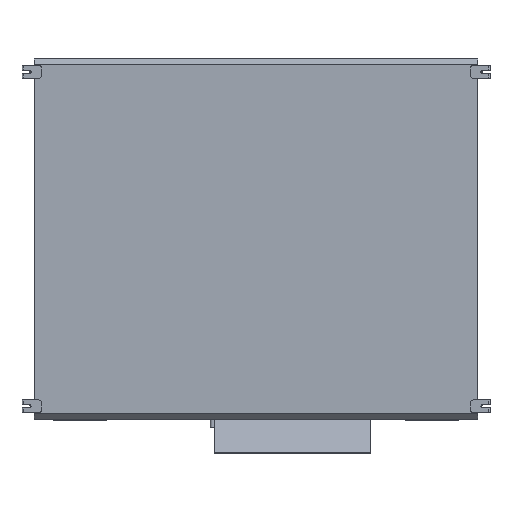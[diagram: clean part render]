
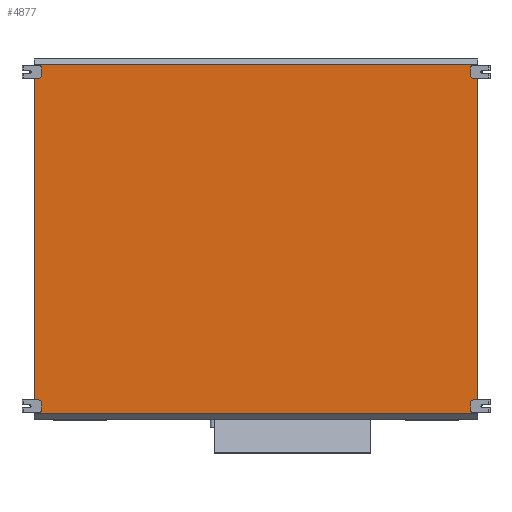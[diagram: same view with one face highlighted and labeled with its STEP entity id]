
A CAD part, top view. The second image highlights one B-rep face of the part: STEP entity #4877.
In plain terms, the highlighted planar face has unit normal (0, 0, 1).
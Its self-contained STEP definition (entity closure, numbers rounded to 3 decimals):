
#212=CIRCLE('',#5151,10.);
#218=CIRCLE('',#5159,10.);
#233=CIRCLE('',#5183,10.);
#235=CIRCLE('',#5188,10.);
#240=CIRCLE('',#5213,10.);
#241=CIRCLE('',#5214,10.);
#242=CIRCLE('',#5215,10.);
#243=CIRCLE('',#5216,10.);
#451=FACE_OUTER_BOUND('',#694,.T.);
#694=EDGE_LOOP('',(#3657,#3658,#3659,#3660,#3661,#3662,#3663,#3664,#3665,
#3666,#3667,#3668,#3669,#3670,#3671,#3672,#3673,#3674,#3675,#3676,#3677,
#3678,#3679,#3680,#3681,#3682,#3683,#3684));
#1046=LINE('',#7296,#1574);
#1052=LINE('',#7314,#1580);
#1058=LINE('',#7333,#1586);
#1070=LINE('',#7368,#1598);
#1078=LINE('',#7394,#1606);
#1084=LINE('',#7407,#1612);
#1096=LINE('',#7443,#1624);
#1097=LINE('',#7445,#1625);
#1098=LINE('',#7446,#1626);
#1099=LINE('',#7448,#1627);
#1100=LINE('',#7450,#1628);
#1101=LINE('',#7454,#1629);
#1102=LINE('',#7458,#1630);
#1103=LINE('',#7460,#1631);
#1104=LINE('',#7462,#1632);
#1105=LINE('',#7464,#1633);
#1106=LINE('',#7466,#1634);
#1107=LINE('',#7470,#1635);
#1108=LINE('',#7474,#1636);
#1109=LINE('',#7475,#1637);
#1574=VECTOR('',#5831,10.);
#1580=VECTOR('',#5849,10.);
#1586=VECTOR('',#5869,10.);
#1598=VECTOR('',#5901,10.);
#1606=VECTOR('',#5927,10.);
#1612=VECTOR('',#5943,10.);
#1624=VECTOR('',#5997,10.);
#1625=VECTOR('',#5998,10.);
#1626=VECTOR('',#5999,10.);
#1627=VECTOR('',#6000,10.);
#1628=VECTOR('',#6001,10.);
#1629=VECTOR('',#6004,10.);
#1630=VECTOR('',#6007,10.);
#1631=VECTOR('',#6008,10.);
#1632=VECTOR('',#6009,10.);
#1633=VECTOR('',#6010,10.);
#1634=VECTOR('',#6011,10.);
#1635=VECTOR('',#6014,10.);
#1636=VECTOR('',#6017,10.);
#1637=VECTOR('',#6018,10.);
#2101=VERTEX_POINT('',#7285);
#2102=VERTEX_POINT('',#7287);
#2104=VERTEX_POINT('',#7295);
#2109=VERTEX_POINT('',#7308);
#2110=VERTEX_POINT('',#7310);
#2116=VERTEX_POINT('',#7331);
#2128=VERTEX_POINT('',#7365);
#2129=VERTEX_POINT('',#7367);
#2134=VERTEX_POINT('',#7380);
#2135=VERTEX_POINT('',#7382);
#2138=VERTEX_POINT('',#7393);
#2139=VERTEX_POINT('',#7400);
#2143=VERTEX_POINT('',#7442);
#2144=VERTEX_POINT('',#7444);
#2145=VERTEX_POINT('',#7447);
#2146=VERTEX_POINT('',#7449);
#2147=VERTEX_POINT('',#7451);
#2148=VERTEX_POINT('',#7453);
#2149=VERTEX_POINT('',#7455);
#2150=VERTEX_POINT('',#7457);
#2151=VERTEX_POINT('',#7459);
#2152=VERTEX_POINT('',#7461);
#2153=VERTEX_POINT('',#7463);
#2154=VERTEX_POINT('',#7465);
#2155=VERTEX_POINT('',#7467);
#2156=VERTEX_POINT('',#7469);
#2157=VERTEX_POINT('',#7471);
#2158=VERTEX_POINT('',#7473);
#2632=EDGE_CURVE('',#2101,#2102,#212,.F.);
#2637=EDGE_CURVE('',#2104,#2102,#1046,.T.);
#2645=EDGE_CURVE('',#2109,#2110,#218,.F.);
#2647=EDGE_CURVE('',#2101,#2110,#1052,.T.);
#2658=EDGE_CURVE('',#2109,#2116,#1058,.T.);
#2675=EDGE_CURVE('',#2129,#2128,#1070,.T.);
#2683=EDGE_CURVE('',#2134,#2135,#233,.F.);
#2689=EDGE_CURVE('',#2138,#2135,#1078,.T.);
#2691=EDGE_CURVE('',#2138,#2128,#235,.F.);
#2697=EDGE_CURVE('',#2134,#2139,#1084,.T.);
#2712=EDGE_CURVE('',#2143,#2139,#1096,.T.);
#2713=EDGE_CURVE('',#2144,#2143,#1097,.T.);
#2714=EDGE_CURVE('',#2104,#2144,#1098,.T.);
#2715=EDGE_CURVE('',#2145,#2116,#1099,.T.);
#2716=EDGE_CURVE('',#2145,#2146,#1100,.T.);
#2717=EDGE_CURVE('',#2147,#2146,#240,.F.);
#2718=EDGE_CURVE('',#2147,#2148,#1101,.T.);
#2719=EDGE_CURVE('',#2149,#2148,#241,.F.);
#2720=EDGE_CURVE('',#2149,#2150,#1102,.T.);
#2721=EDGE_CURVE('',#2151,#2150,#1103,.T.);
#2722=EDGE_CURVE('',#2152,#2151,#1104,.T.);
#2723=EDGE_CURVE('',#2153,#2152,#1105,.T.);
#2724=EDGE_CURVE('',#2153,#2154,#1106,.T.);
#2725=EDGE_CURVE('',#2155,#2154,#242,.F.);
#2726=EDGE_CURVE('',#2155,#2156,#1107,.T.);
#2727=EDGE_CURVE('',#2157,#2156,#243,.F.);
#2728=EDGE_CURVE('',#2157,#2158,#1108,.T.);
#2729=EDGE_CURVE('',#2129,#2158,#1109,.T.);
#3657=ORIENTED_EDGE('',*,*,#2675,.T.);
#3658=ORIENTED_EDGE('',*,*,#2691,.F.);
#3659=ORIENTED_EDGE('',*,*,#2689,.T.);
#3660=ORIENTED_EDGE('',*,*,#2683,.F.);
#3661=ORIENTED_EDGE('',*,*,#2697,.T.);
#3662=ORIENTED_EDGE('',*,*,#2712,.F.);
#3663=ORIENTED_EDGE('',*,*,#2713,.F.);
#3664=ORIENTED_EDGE('',*,*,#2714,.F.);
#3665=ORIENTED_EDGE('',*,*,#2637,.T.);
#3666=ORIENTED_EDGE('',*,*,#2632,.F.);
#3667=ORIENTED_EDGE('',*,*,#2647,.T.);
#3668=ORIENTED_EDGE('',*,*,#2645,.F.);
#3669=ORIENTED_EDGE('',*,*,#2658,.T.);
#3670=ORIENTED_EDGE('',*,*,#2715,.F.);
#3671=ORIENTED_EDGE('',*,*,#2716,.T.);
#3672=ORIENTED_EDGE('',*,*,#2717,.F.);
#3673=ORIENTED_EDGE('',*,*,#2718,.T.);
#3674=ORIENTED_EDGE('',*,*,#2719,.F.);
#3675=ORIENTED_EDGE('',*,*,#2720,.T.);
#3676=ORIENTED_EDGE('',*,*,#2721,.F.);
#3677=ORIENTED_EDGE('',*,*,#2722,.F.);
#3678=ORIENTED_EDGE('',*,*,#2723,.F.);
#3679=ORIENTED_EDGE('',*,*,#2724,.T.);
#3680=ORIENTED_EDGE('',*,*,#2725,.F.);
#3681=ORIENTED_EDGE('',*,*,#2726,.T.);
#3682=ORIENTED_EDGE('',*,*,#2727,.F.);
#3683=ORIENTED_EDGE('',*,*,#2728,.T.);
#3684=ORIENTED_EDGE('',*,*,#2729,.F.);
#4698=PLANE('',#5212);
#4877=ADVANCED_FACE('',(#451),#4698,.T.);
#5151=AXIS2_PLACEMENT_3D('',#7288,#5821,#5822);
#5159=AXIS2_PLACEMENT_3D('',#7311,#5844,#5845);
#5183=AXIS2_PLACEMENT_3D('',#7383,#5915,#5916);
#5188=AXIS2_PLACEMENT_3D('',#7397,#5931,#5932);
#5212=AXIS2_PLACEMENT_3D('',#7441,#5995,#5996);
#5213=AXIS2_PLACEMENT_3D('',#7452,#6002,#6003);
#5214=AXIS2_PLACEMENT_3D('',#7456,#6005,#6006);
#5215=AXIS2_PLACEMENT_3D('',#7468,#6012,#6013);
#5216=AXIS2_PLACEMENT_3D('',#7472,#6015,#6016);
#5821=DIRECTION('center_axis',(0.,0.,-1.));
#5822=DIRECTION('ref_axis',(-0.707,-0.707,0.));
#5831=DIRECTION('',(-1.,0.,0.));
#5844=DIRECTION('center_axis',(0.,0.,-1.));
#5845=DIRECTION('ref_axis',(-0.707,0.707,0.));
#5849=DIRECTION('',(0.,1.,0.));
#5869=DIRECTION('',(1.,0.,0.));
#5901=DIRECTION('',(1.,0.,0.));
#5915=DIRECTION('center_axis',(0.,0.,-1.));
#5916=DIRECTION('ref_axis',(0.707,-0.707,0.));
#5927=DIRECTION('',(0.,-1.,0.));
#5931=DIRECTION('center_axis',(0.,0.,-1.));
#5932=DIRECTION('ref_axis',(0.707,0.707,0.));
#5943=DIRECTION('',(-1.,0.,0.));
#5995=DIRECTION('center_axis',(0.,0.,1.));
#5996=DIRECTION('ref_axis',(1.,0.,0.));
#5997=DIRECTION('',(0.,1.,0.));
#5998=DIRECTION('',(-1.,0.,0.));
#5999=DIRECTION('',(0.,-1.,0.));
#6000=DIRECTION('',(0.,-1.,0.));
#6001=DIRECTION('',(-1.,0.,0.));
#6002=DIRECTION('center_axis',(0.,0.,-1.));
#6003=DIRECTION('ref_axis',(-0.707,-0.707,0.));
#6004=DIRECTION('',(0.,1.,0.));
#6005=DIRECTION('center_axis',(0.,0.,-1.));
#6006=DIRECTION('ref_axis',(-0.707,0.707,0.));
#6007=DIRECTION('',(1.,0.,0.));
#6008=DIRECTION('',(0.,-1.,0.));
#6009=DIRECTION('',(1.,0.,0.));
#6010=DIRECTION('',(0.,1.,0.));
#6011=DIRECTION('',(1.,0.,0.));
#6012=DIRECTION('center_axis',(0.,0.,-1.));
#6013=DIRECTION('ref_axis',(0.707,0.707,0.));
#6014=DIRECTION('',(0.,-1.,0.));
#6015=DIRECTION('center_axis',(0.,0.,-1.));
#6016=DIRECTION('ref_axis',(0.707,-0.707,0.));
#6017=DIRECTION('',(-1.,0.,0.));
#6018=DIRECTION('',(0.,1.,0.));
#7285=CARTESIAN_POINT('',(830.5,-662.5,294.));
#7287=CARTESIAN_POINT('',(840.5,-672.5,294.));
#7288=CARTESIAN_POINT('Origin',(840.5,-662.5,294.));
#7295=CARTESIAN_POINT('',(857.5,-672.5,294.));
#7296=CARTESIAN_POINT('',(437.662,-672.5,294.));
#7308=CARTESIAN_POINT('',(840.5,-622.5,294.));
#7310=CARTESIAN_POINT('',(830.5,-632.5,294.));
#7311=CARTESIAN_POINT('Origin',(840.5,-632.5,294.));
#7314=CARTESIAN_POINT('',(830.5,-323.75,294.));
#7331=CARTESIAN_POINT('',(857.5,-622.5,294.));
#7333=CARTESIAN_POINT('',(437.662,-622.5,294.));
#7365=CARTESIAN_POINT('',(-840.5,-622.5,294.));
#7367=CARTESIAN_POINT('',(-857.5,-622.5,294.));
#7368=CARTESIAN_POINT('',(-437.662,-622.5,294.));
#7380=CARTESIAN_POINT('',(-840.5,-672.5,294.));
#7382=CARTESIAN_POINT('',(-830.5,-662.5,294.));
#7383=CARTESIAN_POINT('Origin',(-840.5,-662.5,294.));
#7393=CARTESIAN_POINT('',(-830.5,-632.5,294.));
#7394=CARTESIAN_POINT('',(-830.5,-323.75,294.));
#7397=CARTESIAN_POINT('Origin',(-840.5,-632.5,294.));
#7400=CARTESIAN_POINT('',(-857.5,-672.5,294.));
#7407=CARTESIAN_POINT('',(-437.662,-672.5,294.));
#7441=CARTESIAN_POINT('Origin',(0.,0.,
294.));
#7442=CARTESIAN_POINT('',(-857.5,-674.5,294.));
#7443=CARTESIAN_POINT('',(-857.5,-348.75,294.));
#7444=CARTESIAN_POINT('',(857.5,-674.5,294.));
#7445=CARTESIAN_POINT('',(428.75,-674.5,294.));
#7446=CARTESIAN_POINT('',(857.5,348.75,294.));
#7447=CARTESIAN_POINT('',(857.5,622.5,294.));
#7448=CARTESIAN_POINT('',(857.5,348.75,294.));
#7449=CARTESIAN_POINT('',(840.5,622.5,294.));
#7450=CARTESIAN_POINT('',(437.662,622.5,294.));
#7451=CARTESIAN_POINT('',(830.5,632.5,294.));
#7452=CARTESIAN_POINT('Origin',(840.5,632.5,294.));
#7453=CARTESIAN_POINT('',(830.5,662.5,294.));
#7454=CARTESIAN_POINT('',(830.5,323.75,294.));
#7455=CARTESIAN_POINT('',(840.5,672.5,294.));
#7456=CARTESIAN_POINT('Origin',(840.5,662.5,294.));
#7457=CARTESIAN_POINT('',(857.5,672.5,294.));
#7458=CARTESIAN_POINT('',(437.662,672.5,294.));
#7459=CARTESIAN_POINT('',(857.5,674.5,294.));
#7460=CARTESIAN_POINT('',(857.5,348.75,294.));
#7461=CARTESIAN_POINT('',(-857.5,674.5,294.));
#7462=CARTESIAN_POINT('',(-428.75,674.5,294.));
#7463=CARTESIAN_POINT('',(-857.5,672.5,294.));
#7464=CARTESIAN_POINT('',(-857.5,-348.75,294.));
#7465=CARTESIAN_POINT('',(-840.5,672.5,294.));
#7466=CARTESIAN_POINT('',(-437.662,672.5,294.));
#7467=CARTESIAN_POINT('',(-830.5,662.5,294.));
#7468=CARTESIAN_POINT('Origin',(-840.5,662.5,294.));
#7469=CARTESIAN_POINT('',(-830.5,632.5,294.));
#7470=CARTESIAN_POINT('',(-830.5,323.75,294.));
#7471=CARTESIAN_POINT('',(-840.5,622.5,294.));
#7472=CARTESIAN_POINT('Origin',(-840.5,632.5,294.));
#7473=CARTESIAN_POINT('',(-857.5,622.5,294.));
#7474=CARTESIAN_POINT('',(-437.662,622.5,294.));
#7475=CARTESIAN_POINT('',(-857.5,-348.75,294.));
